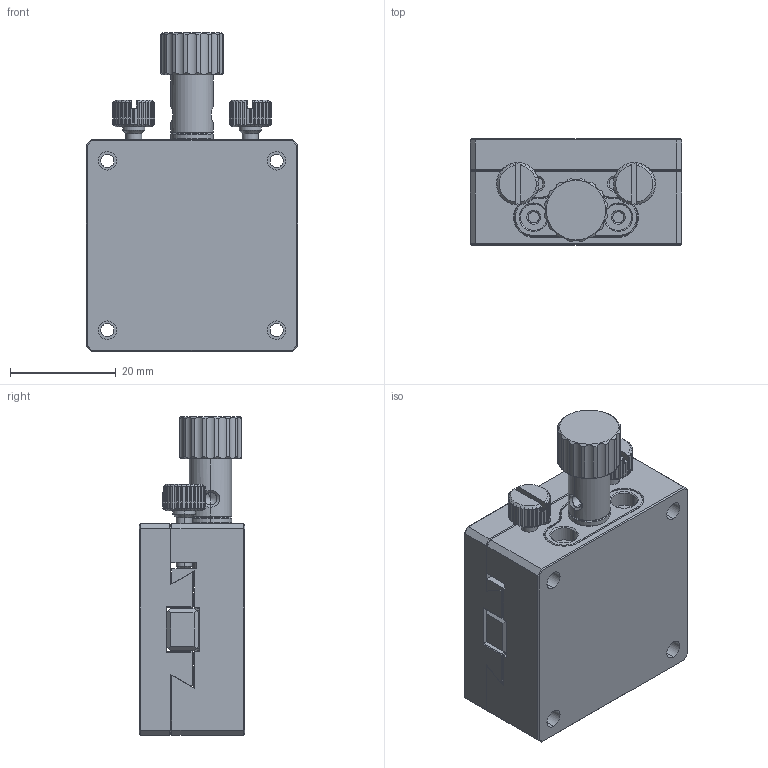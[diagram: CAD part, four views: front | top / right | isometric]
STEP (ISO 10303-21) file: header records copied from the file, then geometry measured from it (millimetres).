
FILE_DESCRIPTION((''),'2;1');
FILE_NAME('ASSY-40-40S-ST15_ASM','2022-02-17T15:04:59',('windows10'),(''),'CREO PARAMETRIC BY PTC INC, 2018260','CREO PARAMETRIC BY PTC INC, 2018260','');
FILE_SCHEMA(('CONFIG_CONTROL_DESIGN'));
Length unit declared in the file: millimetre
Products named in the file (9): BOTTOM-40-20-F-NEW; TOP-40-20-M-NEW; RACK-8-6-40-SLIM-NEW; PINION-4-29; HOLDER-PINION-4D5-SPECIAL; WASHER-8-4-1D4; HANDLE-12-19; STOPPER-8-M3-16; ASSY-40-40S-ST15_ASM
Assembly tree (9 placements, depth 2):
  ASSY-40-40S-ST15_ASM
    BOTTOM-40-20-F-NEW
    TOP-40-20-M-NEW
    RACK-8-6-40-SLIM-NEW
    PINION-4-29
    HOLDER-PINION-4D5-SPECIAL
    WASHER-8-4-1D4
    HANDLE-12-19
    STOPPER-8-M3-16  x2
Bounding box: 40 x 20 x 60.22 mm (x, y, z)
Volume: 31432.2 mm3; surface area: 17782 mm2
Topology: 9 solids, 9 shells, 639 faces, 1643 edges, 1036 vertices
Faces by surface type: plane 298, cylinder 216, cone 121, bspline 4
Entity records: 17029 total; most frequent: CARTESIAN_POINT 4097, DIRECTION 2672, ORIENTED_EDGE 2650, EDGE_CURVE 1325, AXIS2_PLACEMENT_3D 987, VERTEX_POINT 830, VECTOR 698, LINE 698
